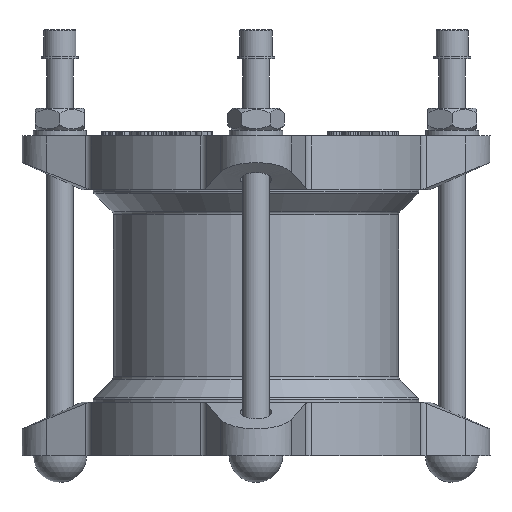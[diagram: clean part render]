
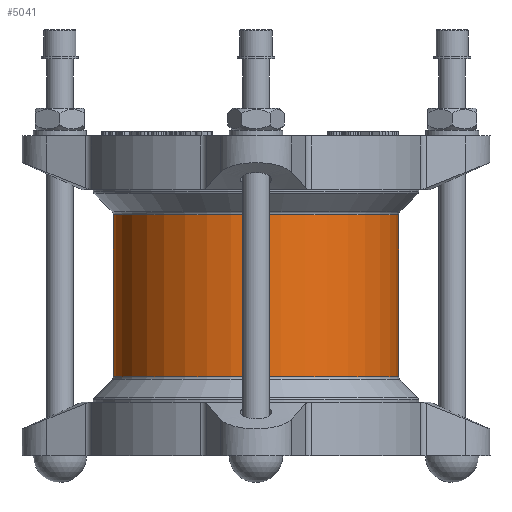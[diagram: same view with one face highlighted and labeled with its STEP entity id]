
A CAD part, front view. The second image highlights one B-rep face of the part: STEP entity #5041.
In plain terms, the highlighted cylindrical face has radius 64 mm (diameter 128 mm), a full revolution.
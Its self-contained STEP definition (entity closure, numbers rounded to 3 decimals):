
#5041=ADVANCED_FACE('',(#9387,#9389),#9391,.T.);
#9387=FACE_OUTER_BOUND('',#9388,.T.);
#9388=EDGE_LOOP('',(#14003));
#9389=FACE_OUTER_BOUND('',#9390,.T.);
#9390=EDGE_LOOP('',(#14004));
#9391=CYLINDRICAL_SURFACE('',#9392,64.);
#9392=AXIS2_PLACEMENT_3D('',#9393,#9394,#9395);
#9393=CARTESIAN_POINT('',(0.,0.,37.172));
#9394=DIRECTION('',(0.,0.,-1.));
#9395=DIRECTION('',(0.,1.,0.));
#14003=ORIENTED_EDGE('',*,*,#15985,.T.);
#14004=ORIENTED_EDGE('',*,*,#15986,.F.);
#15985=EDGE_CURVE('',#18637,#18637,#18638,.T.);
#15986=EDGE_CURVE('',#18639,#18639,#18640,.T.);
#18637=VERTEX_POINT('',#26626);
#18638=CIRCLE('',#26627,64.);
#18639=VERTEX_POINT('',#26631);
#18640=CIRCLE('',#26632,64.);
#26626=CARTESIAN_POINT('',(0.,64.,36.343));
#26627=AXIS2_PLACEMENT_3D('',#26628,#26629,#26630);
#26628=CARTESIAN_POINT('',(0.,0.,36.343));
#26629=DIRECTION('',(0.,0.,-1.));
#26630=DIRECTION('',(0.,1.,0.));
#26631=CARTESIAN_POINT('',(0.,64.,-36.343));
#26632=AXIS2_PLACEMENT_3D('',#26633,#26634,#26635);
#26633=CARTESIAN_POINT('',(0.,0.,-36.343));
#26634=DIRECTION('',(0.,0.,-1.));
#26635=DIRECTION('',(0.,1.,0.));
